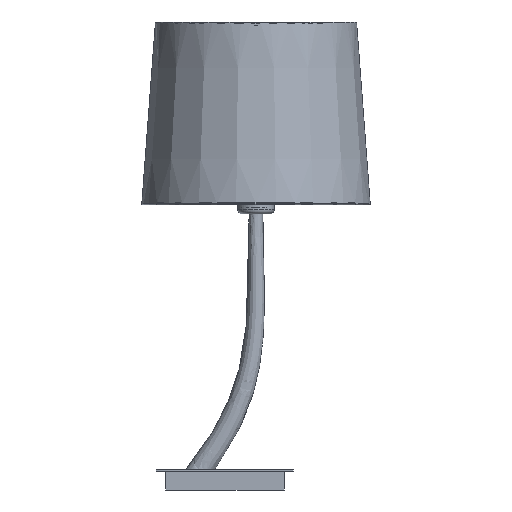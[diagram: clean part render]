
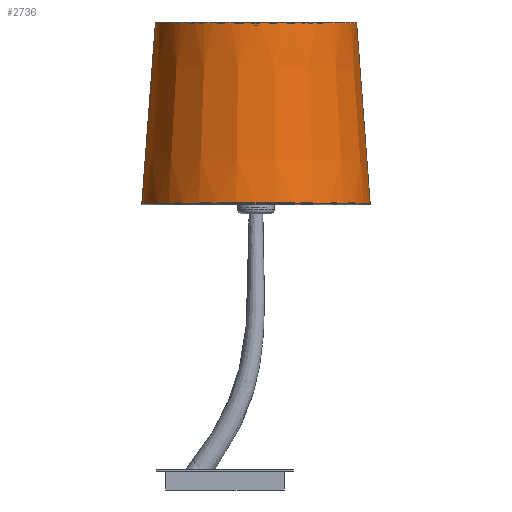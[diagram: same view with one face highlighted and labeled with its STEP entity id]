
A CAD part, left-side view. The second image highlights one B-rep face of the part: STEP entity #2736.
In plain terms, the highlighted conical face has half-angle 4.288 degrees and reference radius 123.44 mm.
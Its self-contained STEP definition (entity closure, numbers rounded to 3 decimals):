
#25=CONICAL_SURFACE('',#3078,123.44,0.075);
#269=CIRCLE('',#3079,124.925);
#476=FACE_OUTER_BOUND('',#673,.T.);
#673=EDGE_LOOP('',(#2363,#2364,#2365,#2366));
#859=LINE('',#5891,#1038);
#860=LINE('',#5895,#1039);
#1038=VECTOR('',#3893,304.8);
#1039=VECTOR('',#3896,304.8);
#1099=B_SPLINE_CURVE_WITH_KNOTS('',3,(#5911,#5912,#5913,#5914,#5915,#5916,
#5917,#5918,#5919,#5920,#5921,#5922,#5923),.UNSPECIFIED.,.F.,.F.,(4,1,1,
1,1,1,1,1,1,1,4),(0.,0.1,0.2,0.3,0.4,0.5,0.6,0.7,0.8,0.9,1.),
 .UNSPECIFIED.);
#1284=VERTEX_POINT('',#5889);
#1285=VERTEX_POINT('',#5890);
#1286=VERTEX_POINT('',#5892);
#1287=VERTEX_POINT('',#5894);
#1643=EDGE_CURVE('',#1284,#1285,#859,.T.);
#1645=EDGE_CURVE('',#1287,#1286,#860,.T.);
#1647=EDGE_CURVE('',#1284,#1286,#269,.T.);
#1648=EDGE_CURVE('',#1287,#1285,#1099,.T.);
#2363=ORIENTED_EDGE('',*,*,#1645,.T.);
#2364=ORIENTED_EDGE('',*,*,#1647,.F.);
#2365=ORIENTED_EDGE('',*,*,#1643,.T.);
#2366=ORIENTED_EDGE('',*,*,#1648,.F.);
#2736=ADVANCED_FACE('',(#476),#25,.T.);
#3078=AXIS2_PLACEMENT_3D('',#5909,#3897,#3898);
#3079=AXIS2_PLACEMENT_3D('',#5910,#3899,#3900);
#3893=DIRECTION('',(0.,0.075,0.997));
#3896=DIRECTION('',(0.,0.075,-0.997));
#3897=DIRECTION('center_axis',(0.,0.,
-1.));
#3898=DIRECTION('ref_axis',(-0.588,-0.809,0.));
#3899=DIRECTION('center_axis',(0.,0.,
-1.));
#3900=DIRECTION('ref_axis',(-0.588,-0.809,0.));
#5889=CARTESIAN_POINT('',(0.,-124.925,1.));
#5890=CARTESIAN_POINT('',(0.,-110.075,199.072));
#5891=CARTESIAN_POINT('',(0.,-124.925,1.));
#5892=CARTESIAN_POINT('',(0.,124.925,1.));
#5894=CARTESIAN_POINT('',(0.,110.075,199.072));
#5895=CARTESIAN_POINT('',(0.,110.075,199.072));
#5909=CARTESIAN_POINT('Origin',(0.,0.,20.807));
#5910=CARTESIAN_POINT('Origin',(0.,0.,
1.));
#5911=CARTESIAN_POINT('Ctrl Pts',(0.,110.075,
199.072));
#5912=CARTESIAN_POINT('Ctrl Pts',(-11.546,110.136,199.072));
#5913=CARTESIAN_POINT('Ctrl Pts',(-34.57,106.396,199.072));
#5914=CARTESIAN_POINT('Ctrl Pts',(-65.776,90.537,199.072));
#5915=CARTESIAN_POINT('Ctrl Pts',(-90.529,65.772,199.072));
#5916=CARTESIAN_POINT('Ctrl Pts',(-106.424,34.58,199.072));
#5917=CARTESIAN_POINT('Ctrl Pts',(-111.901,0.,
199.072));
#5918=CARTESIAN_POINT('Ctrl Pts',(-106.424,-34.58,199.072));
#5919=CARTESIAN_POINT('Ctrl Pts',(-90.529,-65.772,199.072));
#5920=CARTESIAN_POINT('Ctrl Pts',(-65.776,-90.537,199.072));
#5921=CARTESIAN_POINT('Ctrl Pts',(-34.57,-106.396,199.072));
#5922=CARTESIAN_POINT('Ctrl Pts',(-11.546,-110.136,199.072));
#5923=CARTESIAN_POINT('Ctrl Pts',(0.,-110.075,
199.072));
